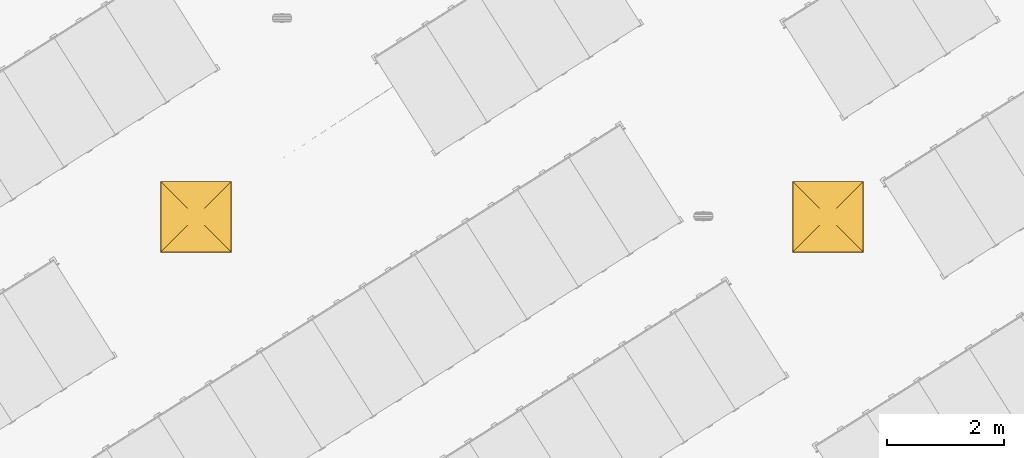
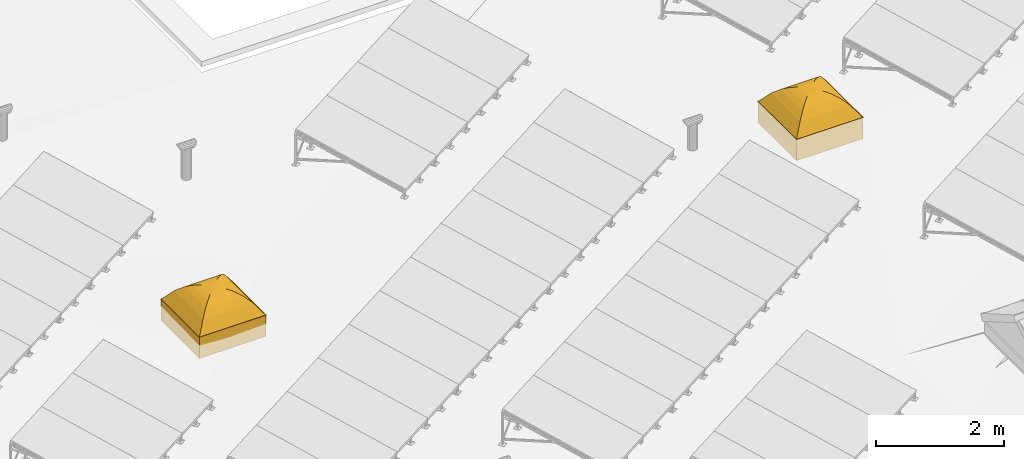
# One storey, part 6 of 9: 2 windows.
"""IFC2X3 building model written with IfcOpenShell, lengths in millimetres."""

import ifcopenshell
import ifcopenshell.guid

model = None  # the IFC model being written
_history = None  # IfcOwnerHistory: only IFC2X3 demands one
_inside = {}  # id of a spatial element -> (the spatial element, [elements in it])
_under = {}  # id of a project, library or spatial element -> (it, [spatial elements below it])
_declared = {}  # id of a project -> (the project, [libraries it declares])
_typed = {}  # id of a type object -> (the type object, [elements of that type])
_made_of = {}  # id of a material, layer set ... -> (it, [elements and type objects made of it])


def new_model(schema):
    """Start an empty IFC model of exactly this schema.

    Asked for "IFC4X3", IfcOpenShell would pick the latest addendum, in which some entities
    have other attributes; the version numbers below select the first issue.
    IFC2X3 requires an IfcOwnerHistory on every rooted entity: one is made here for all.
    """
    global model, _history
    if schema == "IFC4X3":
        model = ifcopenshell.file(schema_version=(4, 3, 0, 0))
    else:
        model = ifcopenshell.file(schema=schema)
    _inside.clear()
    _under.clear()
    _declared.clear()
    _typed.clear()
    _made_of.clear()
    _history = None
    if model.schema == "IFC2X3":
        org = make("IfcOrganization", Name="unknown")
        user = make(
            "IfcPersonAndOrganization",
            ThePerson=make("IfcPerson", FamilyName="unknown"),
            TheOrganization=org,
        )
        app = make(
            "IfcApplication",
            ApplicationDeveloper=org,
            Version="unknown",
            ApplicationFullName="unknown",
            ApplicationIdentifier="unknown",
        )
        _history = make(
            "IfcOwnerHistory",
            OwningUser=user,
            OwningApplication=app,
            ChangeAction="ADDED",
            CreationDate=0,
        )
    return model


def make(cls, **values):
    """One entity of the class cls with the attributes given. An attribute that is None is left unset."""
    return model.create_entity(
        cls, **{name: value for name, value in values.items() if value is not None}
    )


def entity(cls, *values):
    """Any entity or typed value of the class cls, its attributes in the order of the schema. None: left unset."""
    e = model.create_entity(cls)
    for i, value in enumerate(values):
        if value is not None:
            e[i] = value
    return e


def rooted(cls, **values):
    """An entity with a GlobalId (a new one), such as an element, a storey or a relation."""
    return make(cls, GlobalId=ifcopenshell.guid.new(), OwnerHistory=_history, **values)


def si_unit(unit_type, name, prefix=None):
    """IfcSIUnit, for example si_unit("LENGTHUNIT", "METRE", prefix="MILLI")."""
    return make("IfcSIUnit", UnitType=unit_type, Prefix=prefix, Name=name)


def converted_unit(unit_type, name, factor, base, dimensions=None, offset=None):
    """IfcConversionBasedUnit, such as the inch: factor (a typed value) times the base unit."""
    return make(
        "IfcConversionBasedUnit"
        if offset is None
        else "IfcConversionBasedUnitWithOffset",
        ConversionOffset=offset,
        Dimensions=None
        if dimensions is None
        else entity("IfcDimensionalExponents", *dimensions),
        UnitType=unit_type,
        Name=name,
        ConversionFactor=make(
            "IfcMeasureWithUnit", ValueComponent=factor, UnitComponent=base
        ),
    )


def derived_unit(unit_type, elements):
    """IfcDerivedUnit: a product of units, each with its exponent."""
    return make(
        "IfcDerivedUnit",
        Elements=[
            make("IfcDerivedUnitElement", Unit=unit, Exponent=power)
            for unit, power in elements
        ],
        UnitType=unit_type,
    )


def money_unit(currency):
    """IfcMonetaryUnit."""
    return make("IfcMonetaryUnit", Currency=currency)


def assignment(units):
    """IfcUnitAssignment: the units of a project."""
    return None if units is None else make("IfcUnitAssignment", Units=units)


def point(xyz):
    """IfcCartesianPoint."""
    return None if xyz is None else make("IfcCartesianPoint", Coordinates=xyz)


def direction(xyz):
    """IfcDirection."""
    return None if xyz is None else make("IfcDirection", DirectionRatios=xyz)


def frame(location, z_axis=None, x_axis=None):
    """IfcAxis2Placement3D, a coordinate frame: its origin and axes. An axis left out is left unset."""
    return make(
        "IfcAxis2Placement3D",
        Location=point(location),
        Axis=direction(z_axis),
        RefDirection=direction(x_axis),
    )


def origin_with_axes():
    """The frame at (0, 0, 0) with the z axis (0, 0, 1) and the x axis (1, 0, 0) written out."""
    return frame((0.0, 0.0, 0.0), z_axis=(0.0, 0.0, 1.0), x_axis=(1.0, 0.0, 0.0))


def place(relative_to, where):
    """IfcLocalPlacement: puts the frame where relative to a parent placement (None: the world)."""
    return make(
        "IfcLocalPlacement", PlacementRelTo=relative_to, RelativePlacement=where
    )


def context(
    kind, dimensions, precision=None, world=None, true_north=None, identifier=None
):
    """IfcGeometricRepresentationContext, for example the 3D "Model" context."""
    return make(
        "IfcGeometricRepresentationContext",
        ContextIdentifier=identifier,
        ContextType=kind,
        CoordinateSpaceDimension=dimensions,
        Precision=precision,
        WorldCoordinateSystem=world,
        TrueNorth=true_north,
    )


def subcontext(parent, identifier, kind, view, scale=None):
    """IfcGeometricRepresentationSubContext, for example "Body" below "Model"."""
    return make(
        "IfcGeometricRepresentationSubContext",
        ContextIdentifier=identifier,
        ContextType=kind,
        ParentContext=parent,
        TargetScale=scale,
        TargetView=view,
    )


def project(units=None, contexts=None):
    """IfcProject with its units and contexts."""
    return rooted(
        "IfcProject",
        Name="project",
        RepresentationContexts=contexts,
        UnitsInContext=assignment(units),
    )


def spatial(cls, under=None, at=None, **own):
    """A site, building, storey or space (cls), placed at a placement, below another one or the project."""
    s = rooted(cls, ObjectPlacement=at, **own)
    if under is not None:
        _under.setdefault(under.id(), (under, []))[1].append(s)
    return s


def faces_of(points, faces, orient=None, outer=None):
    """IfcFace entities. A face is a list of loops; a loop is a list of indices into points, from 0.

    orient and outer hold one flag for each loop. By default every Orientation is true, the
    first loop of a face is its IfcFaceOuterBound and the others are IfcFaceBound.
    """
    made = []
    for i, loops in enumerate(faces):
        bounds = []
        for j, loop in enumerate(loops):
            is_outer = j == 0 if outer is None else outer[i][j]
            bounds.append(
                make(
                    "IfcFaceOuterBound" if is_outer else "IfcFaceBound",
                    Bound=make("IfcPolyLoop", Polygon=[points[k] for k in loop]),
                    Orientation=True if orient is None else orient[i][j],
                )
            )
        made.append(make("IfcFace", Bounds=bounds))
    return made


def open_shell(faces, orient=None, outer=None):
    """The faces of one IfcOpenShell. surface_model builds it on its shared points."""
    return ("IfcOpenShell", faces, orient, outer)


def faceted_brep(points, faces, orient=None, outer=None, voids=None):
    """IfcFacetedBrep: a solid bounded by flat faces; with voids (closed shells), ...WithVoids."""
    shared = [point(p) for p in points]
    hull = make("IfcClosedShell", CfsFaces=faces_of(shared, faces, orient, outer))
    if voids is None:
        return make("IfcFacetedBrep", Outer=hull)
    return make(
        "IfcFacetedBrepWithVoids",
        Outer=hull,
        Voids=[
            make(cls, CfsFaces=faces_of(shared, fs, o, b)) for cls, fs, o, b in voids
        ],
    )


def surface_model(cls, points, shells):
    """IfcFaceBasedSurfaceModel or IfcShellBasedSurfaceModel (cls): surfaces that need not close."""
    shared = [point(p) for p in points]
    made = [make(c, CfsFaces=faces_of(shared, fs, o, b)) for c, fs, o, b in shells]
    if cls == "IfcFaceBasedSurfaceModel":
        return make(cls, FbsmFaces=made)
    return make(cls, SbsmBoundary=made)


def shape(context_of_items, identifier, shape_type, items):
    """IfcShapeRepresentation: the items that make up one representation, for example the "Body"."""
    return make(
        "IfcShapeRepresentation",
        ContextOfItems=context_of_items,
        RepresentationIdentifier=identifier,
        RepresentationType=shape_type,
        Items=items,
    )


def source(mapping_origin, context_of_items, identifier, shape_type, items):
    """IfcRepresentationMap: a shape defined once, which mapped items show again and again."""
    return make(
        "IfcRepresentationMap",
        MappingOrigin=mapping_origin,
        MappedRepresentation=shape(context_of_items, identifier, shape_type, items),
    )


def transform(
    local_origin,
    x_axis=None,
    y_axis=None,
    z_axis=None,
    scale=None,
    scale2=None,
    scale3=None,
    uniform=True,
):
    """IfcCartesianTransformationOperator3D, or its non-uniform kind. x_axis, y_axis, z_axis: its Axis1, 2, 3."""
    if uniform:
        return make(
            "IfcCartesianTransformationOperator3D",
            Axis1=direction(x_axis),
            Axis2=direction(y_axis),
            LocalOrigin=point(local_origin),
            Scale=scale,
            Axis3=direction(z_axis),
        )
    return make(
        "IfcCartesianTransformationOperator3DnonUniform",
        Axis1=direction(x_axis),
        Axis2=direction(y_axis),
        LocalOrigin=point(local_origin),
        Scale=scale,
        Axis3=direction(z_axis),
        Scale2=scale2,
        Scale3=scale3,
    )


def mapped(mapping_source, mapping_target):
    """IfcMappedItem: shows the shape of a source again, moved by a transform."""
    return make(
        "IfcMappedItem", MappingSource=mapping_source, MappingTarget=mapping_target
    )


def made_of(thing, what):
    """Note that an element or type object is made of a material, layer set ...; save() writes the relation."""
    if what is not None:
        _made_of.setdefault(what.id(), (what, []))[1].append(thing)
    return thing


def type_object(cls, material=None, **own):
    """A type object (cls), such as IfcWallType, which elements share."""
    return made_of(rooted(cls, **own), material)


def element(
    cls,
    number,
    at=None,
    inside=None,
    cuts=None,
    type_object=None,
    material=None,
    context=None,
    identifier="Body",
    shape_type=None,
    held_by="IfcProductDefinitionShape",
    body=None,
    shapes=None,
    **own,
):
    """One element of the class cls, such as IfcWall. Its Tag is "e" and its number.

    at: its placement. inside: the storey or other place that contains it. cuts: it is an
    opening in that element (IfcRelVoidsElement). A single representation is given by context,
    identifier, shape_type and body (its items); several are given by shapes. held_by: the class
    of the entity that holds the representations. save() writes the other relations.
    """
    e = rooted(cls, Tag="e%d" % number, ObjectPlacement=at, **own)
    if body is not None:
        shapes = [shape(context, identifier, shape_type, body)]
    if shapes is not None:
        e.Representation = make(held_by, Representations=shapes)
    if inside is not None:
        _inside.setdefault(inside.id(), (inside, []))[1].append(e)
    if cuts is not None:
        rooted(
            "IfcRelVoidsElement", RelatingBuildingElement=cuts, RelatedOpeningElement=e
        )
    if type_object is not None:
        _typed.setdefault(type_object.id(), (type_object, []))[1].append(e)
    return made_of(e, material)


def aggregate(whole, parts):
    """IfcRelAggregates: a whole, such as a stair, and the parts it consists of."""
    return rooted("IfcRelAggregates", RelatingObject=whole, RelatedObjects=parts)


def save(model, path):
    """Write the relations noted so far, then the file.

    IfcRelAggregates (storeys below a building ...), IfcRelContainedInSpatialStructure (elements
    in a storey), IfcRelDefinesByType, IfcRelAssociatesMaterial and IfcRelDeclares: one each for
    every whole, place, type object, material and project.
    """
    for whole, parts in _under.values():
        aggregate(whole, parts)
    for where, things in _inside.values():
        rooted(
            "IfcRelContainedInSpatialStructure",
            RelatedElements=things,
            RelatingStructure=where,
        )
    for kind, things in _typed.values():
        rooted("IfcRelDefinesByType", RelatedObjects=things, RelatingType=kind)
    for what, things in _made_of.values():
        rooted("IfcRelAssociatesMaterial", RelatedObjects=things, RelatingMaterial=what)
    for by, libraries in _declared.values():
        rooted("IfcRelDeclares", RelatingContext=by, RelatedDefinitions=libraries)
    model.write(path)


model = new_model("IFC2X3")

# Units and contexts
model_context = context("Model", 3, precision=0.01, world=origin_with_axes(), true_north=direction((0.0, 1.0)))
body_context = subcontext(model_context, "Body", "Model", "MODEL_VIEW")
ifc_project = project(units=[si_unit("LENGTHUNIT", "METRE", prefix="MILLI"), si_unit("AREAUNIT", "SQUARE_METRE"), si_unit("VOLUMEUNIT", "CUBIC_METRE"), converted_unit("PLANEANGLEUNIT", "DEGREE", entity("IfcPlaneAngleMeasure", 0.0174532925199), si_unit("PLANEANGLEUNIT", "RADIAN"), dimensions=[0, 0, 0, 0, 0, 0, 0]), si_unit("SOLIDANGLEUNIT", "STERADIAN"), money_unit("EUR"), converted_unit("TIMEUNIT", "Year", entity("IfcTimeMeasure", 31556926.0), si_unit("TIMEUNIT", "SECOND"), dimensions=[0, 0, 1, 0, 0, 0, 0]), si_unit("MASSUNIT", "GRAM", prefix="KILO"), si_unit("THERMODYNAMICTEMPERATUREUNIT", "DEGREE_CELSIUS"), si_unit("LUMINOUSINTENSITYUNIT", "LUMEN"), si_unit("ENERGYUNIT", "JOULE", prefix="MEGA"), derived_unit("THERMALCONDUCTANCEUNIT", [(si_unit("POWERUNIT", "WATT"), 1), (si_unit("LENGTHUNIT", "METRE"), -1), (si_unit("THERMODYNAMICTEMPERATUREUNIT", "KELVIN"), -1)]), derived_unit("SPECIFICHEATCAPACITYUNIT", [(si_unit("ENERGYUNIT", "JOULE"), 1), (si_unit("MASSUNIT", "GRAM", prefix="KILO"), -1), (si_unit("THERMODYNAMICTEMPERATUREUNIT", "KELVIN"), -1)]), derived_unit("MASSDENSITYUNIT", [(si_unit("MASSUNIT", "GRAM", prefix="KILO"), 1), (si_unit("VOLUMEUNIT", "CUBIC_METRE"), -1)])], contexts=[model_context])

# Site, building, storey
site_placement = place(None, origin_with_axes())
site = spatial("IfcSite", under=ifc_project, at=site_placement, Name="KIRDE 14, ELVA", CompositionType="ELEMENT")
building_placement = place(site_placement, origin_with_axes())
building = spatial("IfcBuilding", under=site, at=building_placement, Name="PPA ja Päästeameti ühishoone", CompositionType="ELEMENT")
storey_placement = place(building_placement, frame((0.0, 0.0, 7700.0), z_axis=(0.0, 0.0, 1.0), x_axis=(1.0, 0.0, 0.0)))
storey = spatial("IfcBuildingStorey", under=building, at=storey_placement, Name="Katusekorrus", CompositionType="ELEMENT", Elevation=7700.0)

# Windows
window_style = type_object("IfcWindowStyle", Name="Skylight Dome Rect", ConstructionType="NOTDEFINED", OperationType="NOTDEFINED", ParameterTakesPrecedence=False, Sizeable=False)
shared_shape = source(origin_with_axes(), body_context, "Body", "SurfaceModel", [
    faceted_brep([(-588.0, 0.0, -250.0), (-588.0, 12.0, -250.0), (588.0, 12.0, -250.0), (588.0, 0.0, -250.0), (-588.0, 0.0, 0.0), (-588.0, 12.0, 0.0), (588.0, 12.0, 0.0), (588.0, 0.0, 0.0)], [[[0, 1, 2, 3]], [[0, 4, 5, 1]], [[1, 5, 6, 2]], [[3, 2, 6, 7]], [[4, 0, 3, 7]], [[5, 4, 7, 6]]]),
    faceted_brep([(-588.0, 1200.00134232, 0.0), (-588.0, 1188.00134232, 0.0), (588.0, 1188.00134232, 0.0), (588.0, 1200.00134232, 0.0), (-588.0, 1200.00134232, -250.0), (-588.0, 1188.00134232, -250.0), (588.0, 1188.00134232, -250.0), (588.0, 1200.00134232, -250.0)], [[[0, 1, 2, 3]], [[0, 4, 5, 1]], [[1, 5, 6, 2]], [[3, 2, 6, 7]], [[4, 0, 3, 7]], [[5, 4, 7, 6]]]),
    faceted_brep([(-600.0, 0.0, -250.0), (-600.0, 1200.00134232, -250.0), (-588.0, 1200.00134232, -250.0), (-588.0, 0.0, -250.0), (-600.0, 0.0, 0.0), (-600.0, 1200.00134232, 0.0), (-588.0, 1200.00134232, 0.0), (-588.0, 0.0, 0.0)], [[[0, 1, 2, 3]], [[0, 4, 5, 1]], [[1, 5, 6, 2]], [[3, 2, 6, 7]], [[4, 0, 3, 7]], [[5, 4, 7, 6]]]),
    faceted_brep([(588.0, 0.0, -250.0), (588.0, 1200.00134232, -250.0), (600.0, 1200.00134232, -250.0), (600.0, 0.0, -250.0), (588.0, 0.0, 0.0), (588.0, 1200.00134232, 0.0), (600.0, 1200.00134232, 0.0), (600.0, 0.0, 0.0)], [[[0, 1, 2, 3]], [[0, 4, 5, 1]], [[1, 5, 6, 2]], [[3, 2, 6, 7]], [[4, 0, 3, 7]], [[5, 4, 7, 6]]]),
    faceted_brep([(-600.0, 0.0, 0.0), (600.0, 0.0, 0.0), (600.0, 0.0, 150.0), (-600.0, 0.0, 150.0), (-600.0, 1200.00134232, 0.0), (600.0, 1200.00134232, 0.0), (-550.0, 50.0, 0.0), (550.0, 50.0, 0.0), (550.0, 1150.00134232, 0.0), (-550.0, 1150.00134232, 0.0), (600.0, 1200.00134232, 150.0), (-600.0, 1200.00134232, 150.0), (-550.0, 50.0, 150.0), (-550.0, 1150.00134232, 150.0), (550.0, 1150.00134232, 150.0), (550.0, 50.0, 150.0)], [[[0, 1, 2, 3]], [[0, 4, 5, 1], [6, 7, 8, 9]], [[1, 5, 10, 2]], [[3, 2, 10, 11], [12, 13, 14, 15]], [[4, 0, 3, 11]], [[5, 4, 11, 10]], [[7, 6, 12, 15]], [[8, 7, 15, 14]], [[9, 8, 14, 13]], [[6, 9, 13, 12]]]),
    faceted_brep([(-605.0, -5.0, 150.0), (605.0, -5.0, 150.0), (605.0, -5.0, 155.0), (-605.0, -5.0, 155.0), (-605.0, 1205.00134232, 150.0), (605.0, 1205.00134232, 150.0), (-590.0, 10.0, 150.0), (590.0, 10.0, 150.0), (590.0, 1190.00134232, 150.0), (-590.0, 1190.00134232, 150.0), (605.0, 1205.00134232, 155.0), (-605.0, 1205.00134232, 155.0), (-590.0, 10.0, 155.0), (-590.0, 1190.00134232, 155.0), (590.0, 1190.00134232, 155.0), (590.0, 10.0, 155.0)], [[[0, 1, 2, 3]], [[0, 4, 5, 1], [6, 7, 8, 9]], [[1, 5, 10, 2]], [[3, 2, 10, 11], [12, 13, 14, 15]], [[4, 0, 3, 11]], [[5, 4, 11, 10]], [[7, 6, 12, 15]], [[8, 7, 15, 14]], [[9, 8, 14, 13]], [[6, 9, 13, 12]]]),
    faceted_brep([(-605.0, -5.0, 155.0), (605.0, -5.0, 155.0), (605.0, -5.0, 160.0), (-605.0, -5.0, 160.0), (-605.0, 1205.00134232, 155.0), (605.0, 1205.00134232, 155.0), (-600.0, 0.0, 155.0), (600.0, 0.0, 155.0), (600.0, 1200.00134232, 155.0), (-600.0, 1200.00134232, 155.0), (605.0, 1205.00134232, 160.0), (-605.0, 1205.00134232, 160.0), (-600.0, 0.0, 160.0), (-600.0, 1200.00134232, 160.0), (600.0, 1200.00134232, 160.0), (600.0, 0.0, 160.0)], [[[0, 1, 2, 3]], [[0, 4, 5, 1], [6, 7, 8, 9]], [[1, 5, 10, 2]], [[3, 2, 10, 11], [12, 13, 14, 15]], [[4, 0, 3, 11]], [[5, 4, 11, 10]], [[7, 6, 12, 15]], [[8, 7, 15, 14]], [[9, 8, 14, 13]], [[6, 9, 13, 12]]]),
    surface_model("IfcShellBasedSurfaceModel", [(-600.0, 0.0, 155.0), (450.0, 150.00016779, 355.784313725), (-450.0, 150.00016779, 355.784313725), (600.0, 0.0, 155.0), (337.5, 262.500293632, 456.176470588), (-600.0, 1200.00134232, 155.0), (450.0, 1050.00117453, 355.784313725), (-337.5, 262.500293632, 456.176470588), (337.5, 937.501048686, 456.176470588), (-450.0, 1050.00117453, 355.784313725), (600.0, 1200.00134232, 155.0), (253.125, 346.875388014, 506.37254902), (253.125, 853.125954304, 506.37254902), (-337.5, 937.501048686, 456.176470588), (-253.125, 346.875388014, 506.37254902), (-253.125, 853.125954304, 506.37254902), (189.84375, 410.1567088, 531.470588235), (189.84375, 789.844633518, 531.470588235), (-189.84375, 789.844633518, 531.470588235), (-189.84375, 410.1567088, 531.470588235), (142.3828125, 457.61769939, 544.019607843), (142.3828125, 742.383642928, 544.019607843), (-142.3828125, 742.383642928, 544.019607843), (-142.3828125, 457.61769939, 544.019607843), (106.787109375, 493.213442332, 550.294117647), (106.787109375, 706.787899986, 550.294117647), (-106.787109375, 706.787899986, 550.294117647), (-106.787109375, 493.213442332, 550.294117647), (80.0903320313, 519.910249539, 553.431372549), (80.0903320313, 680.091092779, 553.431372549), (-80.0903320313, 680.091092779, 553.431372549), (-80.0903320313, 519.910249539, 553.431372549), (60.0677490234, 539.932854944, 555.0), (60.0677490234, 660.068487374, 555.0), (-60.0677490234, 660.068487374, 555.0), (-60.0677490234, 539.932854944, 555.0)], [open_shell([[[0, 1, 2]], [[1, 0, 3]], [[4, 2, 1]], [[2, 5, 0]], [[3, 6, 1]], [[2, 4, 7]], [[1, 8, 4]], [[5, 2, 9]], [[6, 3, 10]], [[8, 1, 6]], [[11, 7, 4]], [[7, 9, 2]], [[12, 4, 8]], [[9, 10, 5]], [[10, 9, 6]], [[6, 13, 8]], [[7, 11, 14]], [[4, 12, 11]], [[9, 7, 13]], [[8, 15, 12]], [[13, 6, 9]], [[15, 8, 13]], [[16, 14, 11]], [[14, 13, 7]], [[17, 11, 12]], [[18, 12, 15]], [[13, 14, 15]], [[14, 16, 19]], [[11, 17, 16]], [[12, 18, 17]], [[15, 19, 18]], [[19, 15, 14]], [[20, 19, 16]], [[21, 16, 17]], [[22, 17, 18]], [[23, 18, 19]], [[19, 20, 23]], [[16, 21, 20]], [[17, 22, 21]], [[18, 23, 22]], [[24, 23, 20]], [[25, 20, 21]], [[26, 21, 22]], [[27, 22, 23]], [[23, 24, 27]], [[20, 25, 24]], [[21, 26, 25]], [[22, 27, 26]], [[28, 27, 24]], [[29, 24, 25]], [[30, 25, 26]], [[31, 26, 27]], [[27, 28, 31]], [[24, 29, 28]], [[25, 30, 29]], [[26, 31, 30]], [[32, 31, 28]], [[33, 28, 29]], [[34, 29, 30]], [[35, 30, 31]], [[31, 32, 35]], [[28, 33, 32]], [[29, 34, 33]], [[30, 35, 34]], [[35, 32, 33, 34]]])]),
])
for number, where, z_axis, x_axis, name in (
    (1, (5850.0001222, 14499.9987918, -159.221883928), (0.0, 0.0, 1.0), (1.0, 3.98085120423e-10, 0.0), "KA-04"),
    (2, (16625.3030045, 14499.9981202, -159.221883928), (0.0, 0.0, 1.0), (1.0, 3.98085120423e-10, 0.0), "KA-04"),
):
    element("IfcWindow", number, at=place(storey_placement, frame(where, z_axis=z_axis, x_axis=x_axis)), inside=storey, type_object=window_style, Name=name, ObjectType="WINDOW", context=body_context, shape_type="MappedRepresentation", body=[
        mapped(shared_shape, transform((0.0, 0.0, 0.0))),
    ])

save(model, "model.ifc")
